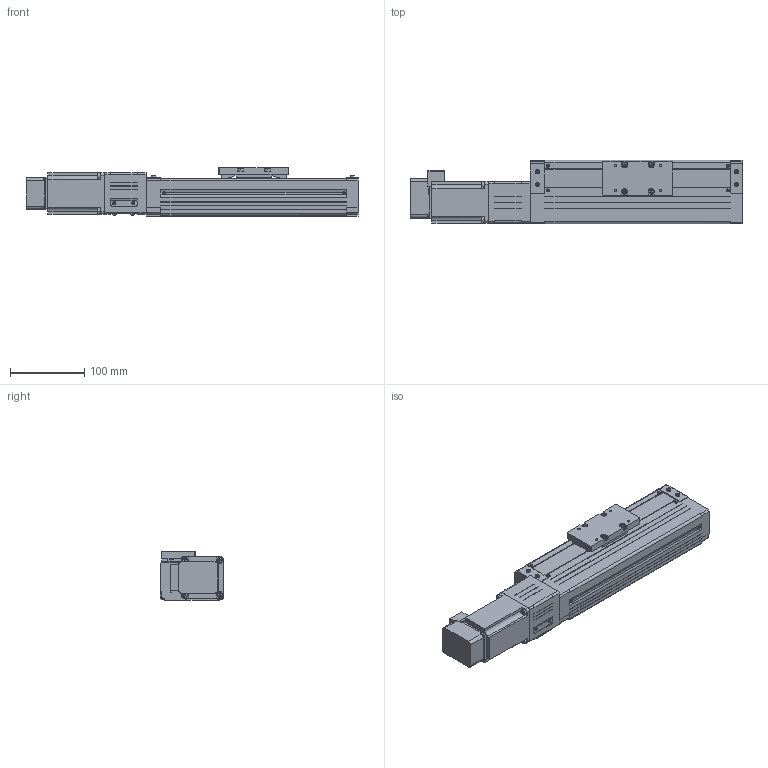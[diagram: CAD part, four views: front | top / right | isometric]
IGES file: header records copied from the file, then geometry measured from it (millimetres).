
Global section: file name: No Iges File Name specified; native system: AutoDesk Inventor R10; preprocessor: AutoDesk Inventor Iges Exporter R10; author: No Author specified; organization: No Organization specified; date: 20110702.132815; units: millimetre
Bounding box: 446.5 x 85 x 65 mm (x, y, z)
Surface area: 257370.2 mm2 (no closed solid volume)
Topology: 0 solids, 0 shells, 1075 faces, 6592 edges, 6564 vertices
Faces by surface type: bspline 1075
